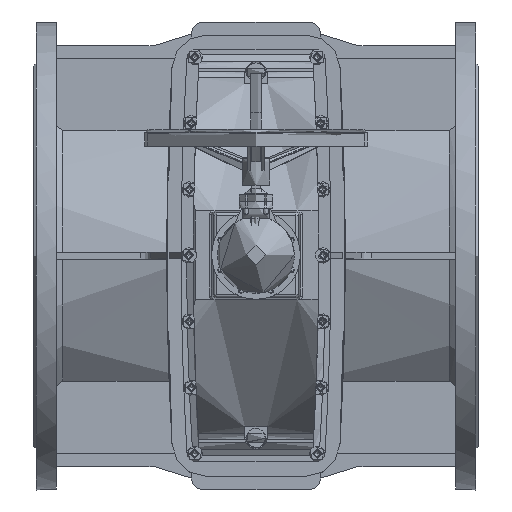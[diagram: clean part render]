
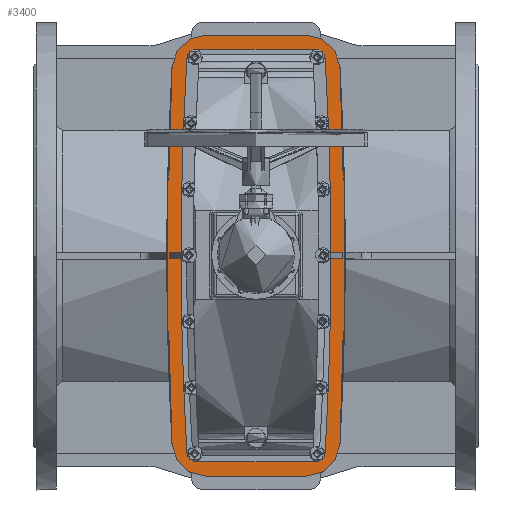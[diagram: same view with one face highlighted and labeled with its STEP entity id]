
A CAD part, top view. The second image highlights one B-rep face of the part: STEP entity #3400.
In plain terms, the highlighted planar face has unit normal (0, 0, 1).
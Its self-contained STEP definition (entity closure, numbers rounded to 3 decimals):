
#3400=ADVANCED_FACE('',(#9725,#9727),#9729,.T.);
#9725=FACE_BOUND('',#9726,.T.);
#9726=EDGE_LOOP('',(#30592,#30593,#30594,#30595,#30596,#30597,#30598,#30599));
#9727=FACE_BOUND('',#9728,.T.);
#9728=EDGE_LOOP('',(#30600,#30601,#30602,#30603,#30604,#30605,#30606,#30607,#30608,
#30609,#30610,#30611,#30612,#30613,#30614,#30615));
#9729=PLANE('',#9730);
#9730=AXIS2_PLACEMENT_3D('',#9731,#9732,#9733);
#9731=CARTESIAN_POINT('',(0.,0.,512.785));
#9732=DIRECTION('',(0.,0.,1.));
#9733=DIRECTION('',(-1.,0.,0.));
#30592=ORIENTED_EDGE('',*,*,#35651,.T.);
#30593=ORIENTED_EDGE('',*,*,#35649,.T.);
#30594=ORIENTED_EDGE('',*,*,#35647,.T.);
#30595=ORIENTED_EDGE('',*,*,#35645,.T.);
#30596=ORIENTED_EDGE('',*,*,#35661,.T.);
#30597=ORIENTED_EDGE('',*,*,#35659,.T.);
#30598=ORIENTED_EDGE('',*,*,#35657,.T.);
#30599=ORIENTED_EDGE('',*,*,#35653,.T.);
#30600=ORIENTED_EDGE('',*,*,#35779,.F.);
#30601=ORIENTED_EDGE('',*,*,#35780,.F.);
#30602=ORIENTED_EDGE('',*,*,#35781,.F.);
#30603=ORIENTED_EDGE('',*,*,#35782,.T.);
#30604=ORIENTED_EDGE('',*,*,#35783,.T.);
#30605=ORIENTED_EDGE('',*,*,#35784,.T.);
#30606=ORIENTED_EDGE('',*,*,#35785,.T.);
#30607=ORIENTED_EDGE('',*,*,#35786,.T.);
#30608=ORIENTED_EDGE('',*,*,#35787,.F.);
#30609=ORIENTED_EDGE('',*,*,#35788,.F.);
#30610=ORIENTED_EDGE('',*,*,#35789,.F.);
#30611=ORIENTED_EDGE('',*,*,#35790,.T.);
#30612=ORIENTED_EDGE('',*,*,#35791,.T.);
#30613=ORIENTED_EDGE('',*,*,#35792,.T.);
#30614=ORIENTED_EDGE('',*,*,#35793,.T.);
#30615=ORIENTED_EDGE('',*,*,#35794,.T.);
#35645=EDGE_CURVE('',#39295,#39293,#39296,.T.);
#35647=EDGE_CURVE('',#39298,#39295,#39299,.T.);
#35649=EDGE_CURVE('',#39301,#39298,#39302,.T.);
#35651=EDGE_CURVE('',#39304,#39301,#39305,.T.);
#35653=EDGE_CURVE('',#39307,#39304,#39308,.T.);
#35657=EDGE_CURVE('',#39312,#39307,#39313,.T.);
#35659=EDGE_CURVE('',#39315,#39312,#39316,.T.);
#35661=EDGE_CURVE('',#39293,#39315,#39318,.T.);
#35779=EDGE_CURVE('',#39526,#39527,#39528,.F.);
#35780=EDGE_CURVE('',#39529,#39526,#39530,.T.);
#35781=EDGE_CURVE('',#39531,#39529,#39532,.T.);
#35782=EDGE_CURVE('',#39531,#39533,#39534,.F.);
#35783=EDGE_CURVE('',#39533,#39535,#39536,.T.);
#35784=EDGE_CURVE('',#39535,#39537,#39538,.T.);
#35785=EDGE_CURVE('',#39537,#39539,#39540,.T.);
#35786=EDGE_CURVE('',#39539,#39541,#39542,.F.);
#35787=EDGE_CURVE('',#39543,#39541,#39544,.T.);
#35788=EDGE_CURVE('',#39545,#39543,#39546,.T.);
#35789=EDGE_CURVE('',#39547,#39545,#39548,.F.);
#35790=EDGE_CURVE('',#39547,#39549,#39550,.F.);
#35791=EDGE_CURVE('',#39549,#39551,#39552,.T.);
#35792=EDGE_CURVE('',#39551,#39553,#39554,.T.);
#35793=EDGE_CURVE('',#39553,#39555,#39556,.T.);
#35794=EDGE_CURVE('',#39555,#39527,#39557,.F.);
#39293=VERTEX_POINT('',#49901);
#39295=VERTEX_POINT('',#49905);
#39296=CIRCLE('',#49906,5978.392);
#39298=VERTEX_POINT('',#49913);
#39299=CIRCLE('',#49914,60.);
#39301=VERTEX_POINT('',#49921);
#39302=LINE('',#49922,#49923);
#39304=VERTEX_POINT('',#49928);
#39305=CIRCLE('',#49929,60.);
#39307=VERTEX_POINT('',#49936);
#39308=CIRCLE('',#49937,5978.392);
#39312=VERTEX_POINT('',#49950);
#39313=CIRCLE('',#49951,60.);
#39315=VERTEX_POINT('',#49958);
#39316=LINE('',#49959,#49960);
#39318=CIRCLE('',#49965,60.);
#39526=VERTEX_POINT('',#50425);
#39527=VERTEX_POINT('',#50426);
#39528=LINE('',#50427,#50428);
#39529=VERTEX_POINT('',#50430);
#39530=LINE('',#50431,#50432);
#39531=VERTEX_POINT('',#50434);
#39532=LINE('',#50435,#50436);
#39533=VERTEX_POINT('',#50438);
#39534=CIRCLE('',#50439,5930.392);
#39535=VERTEX_POINT('',#50443);
#39536=CIRCLE('',#50444,12.);
#39537=VERTEX_POINT('',#50448);
#39538=LINE('',#50449,#50450);
#39539=VERTEX_POINT('',#50452);
#39540=CIRCLE('',#50453,12.);
#39541=VERTEX_POINT('',#50457);
#39542=CIRCLE('',#50458,5930.392);
#39543=VERTEX_POINT('',#50462);
#39544=LINE('',#50463,#50464);
#39545=VERTEX_POINT('',#50466);
#39546=LINE('',#50467,#50468);
#39547=VERTEX_POINT('',#50470);
#39548=LINE('',#50471,#50472);
#39549=VERTEX_POINT('',#50474);
#39550=CIRCLE('',#50475,5930.392);
#39551=VERTEX_POINT('',#50479);
#39552=CIRCLE('',#50480,12.);
#39553=VERTEX_POINT('',#50484);
#39554=LINE('',#50485,#50486);
#39555=VERTEX_POINT('',#50488);
#39556=CIRCLE('',#50489,12.);
#39557=CIRCLE('',#50493,5930.392);
#49901=CARTESIAN_POINT('',(-150.77,-339.406,512.785));
#49905=CARTESIAN_POINT('',(-150.77,339.406,512.785));
#49906=AXIS2_PLACEMENT_3D('',#49907,#49908,#49909);
#49907=CARTESIAN_POINT('',(5817.981,0.,512.785));
#49908=DIRECTION('',(0.,0.,1.));
#49909=DIRECTION('',(-0.998,0.057,0.));
#49913=CARTESIAN_POINT('',(-90.866,396.,512.785));
#49914=AXIS2_PLACEMENT_3D('',#49915,#49916,#49917);
#49915=CARTESIAN_POINT('',(-90.866,336.,512.785));
#49916=DIRECTION('',(0.,0.,1.));
#49917=DIRECTION('',(0.,1.,0.));
#49921=CARTESIAN_POINT('',(90.866,396.,512.785));
#49922=CARTESIAN_POINT('',(90.866,396.,512.785));
#49923=VECTOR('',#49924,1.);
#49924=DIRECTION('',(-1.,0.,0.));
#49928=CARTESIAN_POINT('',(150.77,339.406,512.785));
#49929=AXIS2_PLACEMENT_3D('',#49930,#49931,#49932);
#49930=CARTESIAN_POINT('',(90.866,336.,512.785));
#49931=DIRECTION('',(0.,0.,1.));
#49932=DIRECTION('',(0.998,0.057,0.));
#49936=CARTESIAN_POINT('',(150.77,-339.406,512.785));
#49937=AXIS2_PLACEMENT_3D('',#49938,#49939,#49940);
#49938=CARTESIAN_POINT('',(-5817.981,0.,512.785));
#49939=DIRECTION('',(0.,0.,1.));
#49940=DIRECTION('',(0.998,-0.057,0.));
#49950=CARTESIAN_POINT('',(90.866,-396.,512.785));
#49951=AXIS2_PLACEMENT_3D('',#49952,#49953,#49954);
#49952=CARTESIAN_POINT('',(90.866,-336.,512.785));
#49953=DIRECTION('',(0.,0.,1.));
#49954=DIRECTION('',(0.,-1.,0.));
#49958=CARTESIAN_POINT('',(-90.866,-396.,512.785));
#49959=CARTESIAN_POINT('',(-90.866,-396.,512.785));
#49960=VECTOR('',#49961,1.);
#49961=DIRECTION('',(1.,0.,0.));
#49965=AXIS2_PLACEMENT_3D('',#49966,#49967,#49968);
#49966=CARTESIAN_POINT('',(-90.866,-336.,512.785));
#49967=DIRECTION('',(0.,0.,1.));
#49968=DIRECTION('',(-0.998,-0.057,0.));
#50425=CARTESIAN_POINT('',(-155.517,-6.,512.785));
#50426=CARTESIAN_POINT('',(-112.409,-6.,512.785));
#50427=CARTESIAN_POINT('',(-112.409,-6.,512.785));
#50428=VECTOR('',#50429,1.);
#50429=DIRECTION('',(-1.,0.,0.));
#50430=CARTESIAN_POINT('',(-155.517,6.,512.785));
#50431=CARTESIAN_POINT('',(-155.517,6.,512.785));
#50432=VECTOR('',#50433,1.);
#50433=DIRECTION('',(0.,-1.,0.));
#50434=CARTESIAN_POINT('',(-112.409,6.,512.785));
#50435=CARTESIAN_POINT('',(-112.409,6.,512.785));
#50436=VECTOR('',#50437,1.);
#50437=DIRECTION('',(-1.,0.,0.));
#50438=CARTESIAN_POINT('',(-102.847,336.681,512.785));
#50439=AXIS2_PLACEMENT_3D('',#50440,#50441,#50442);
#50440=CARTESIAN_POINT('',(5817.981,0.,512.785));
#50441=DIRECTION('',(0.,0.,1.));
#50442=DIRECTION('',(-0.998,0.057,0.));
#50443=CARTESIAN_POINT('',(-90.866,348.,512.785));
#50444=AXIS2_PLACEMENT_3D('',#50445,#50446,#50447);
#50445=CARTESIAN_POINT('',(-90.866,336.,512.785));
#50446=DIRECTION('',(0.,0.,-1.));
#50447=DIRECTION('',(-0.998,0.057,0.));
#50448=CARTESIAN_POINT('',(90.866,348.,512.785));
#50449=CARTESIAN_POINT('',(-90.866,348.,512.785));
#50450=VECTOR('',#50451,1.);
#50451=DIRECTION('',(1.,0.,0.));
#50452=CARTESIAN_POINT('',(102.847,336.681,512.785));
#50453=AXIS2_PLACEMENT_3D('',#50454,#50455,#50456);
#50454=CARTESIAN_POINT('',(90.866,336.,512.785));
#50455=DIRECTION('',(0.,0.,-1.));
#50456=DIRECTION('',(0.,1.,0.));
#50457=CARTESIAN_POINT('',(112.409,6.,512.785));
#50458=AXIS2_PLACEMENT_3D('',#50459,#50460,#50461);
#50459=CARTESIAN_POINT('',(-5817.981,0.,512.785));
#50460=DIRECTION('',(0.,0.,1.));
#50461=DIRECTION('',(1.,0.001,0.));
#50462=CARTESIAN_POINT('',(155.517,6.,512.785));
#50463=CARTESIAN_POINT('',(155.517,6.,512.785));
#50464=VECTOR('',#50465,1.);
#50465=DIRECTION('',(-1.,0.,0.));
#50466=CARTESIAN_POINT('',(155.517,-6.,512.785));
#50467=CARTESIAN_POINT('',(155.517,-6.,512.785));
#50468=VECTOR('',#50469,1.);
#50469=DIRECTION('',(0.,1.,0.));
#50470=CARTESIAN_POINT('',(112.409,-6.,512.785));
#50471=CARTESIAN_POINT('',(155.517,-6.,512.785));
#50472=VECTOR('',#50473,1.);
#50473=DIRECTION('',(-1.,0.,0.));
#50474=CARTESIAN_POINT('',(102.847,-336.681,512.785));
#50475=AXIS2_PLACEMENT_3D('',#50476,#50477,#50478);
#50476=CARTESIAN_POINT('',(-5817.981,0.,512.785));
#50477=DIRECTION('',(0.,0.,1.));
#50478=DIRECTION('',(0.998,-0.057,0.));
#50479=CARTESIAN_POINT('',(90.866,-348.,512.785));
#50480=AXIS2_PLACEMENT_3D('',#50481,#50482,#50483);
#50481=CARTESIAN_POINT('',(90.866,-336.,512.785));
#50482=DIRECTION('',(0.,0.,-1.));
#50483=DIRECTION('',(0.998,-0.057,0.));
#50484=CARTESIAN_POINT('',(-90.866,-348.,512.785));
#50485=CARTESIAN_POINT('',(90.866,-348.,512.785));
#50486=VECTOR('',#50487,1.);
#50487=DIRECTION('',(-1.,0.,0.));
#50488=CARTESIAN_POINT('',(-102.847,-336.681,512.785));
#50489=AXIS2_PLACEMENT_3D('',#50490,#50491,#50492);
#50490=CARTESIAN_POINT('',(-90.866,-336.,512.785));
#50491=DIRECTION('',(0.,0.,-1.));
#50492=DIRECTION('',(0.,-1.,0.));
#50493=AXIS2_PLACEMENT_3D('',#50494,#50495,#50496);
#50494=CARTESIAN_POINT('',(5817.981,0.,512.785));
#50495=DIRECTION('',(0.,0.,1.));
#50496=DIRECTION('',(-1.,-0.001,0.));
